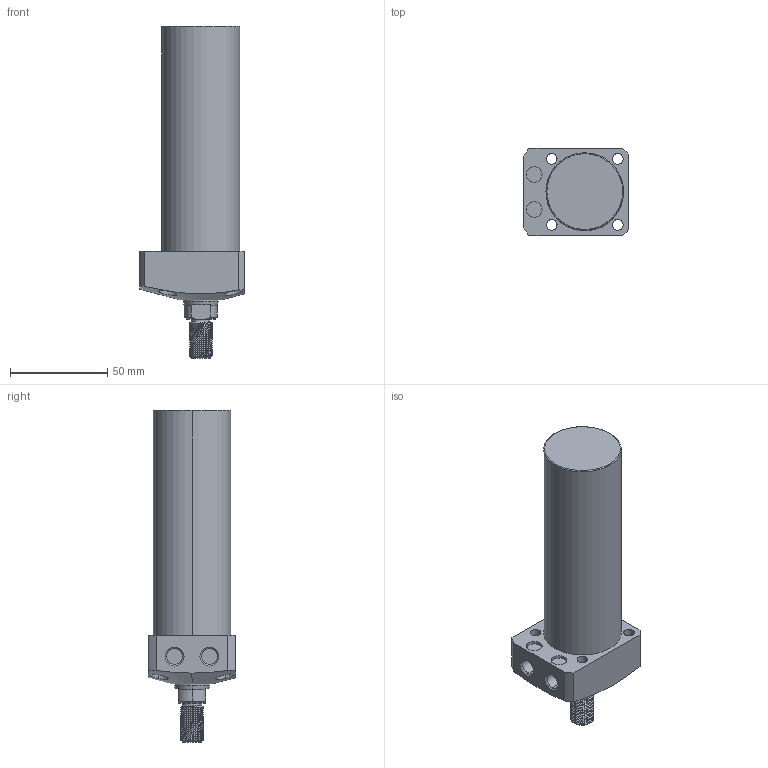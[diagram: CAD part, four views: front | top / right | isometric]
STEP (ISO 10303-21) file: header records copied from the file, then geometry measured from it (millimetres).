
FILE_DESCRIPTION (( 'STEP AP203' ), '1' );
FILE_NAME ('CLL-040CT-090.STEP', '2020-01-08T09:09:48', ( '' ), ( '' ), 'SwSTEP 2.0', 'SolidWorks 2015', '' );
FILE_SCHEMA (( 'CONFIG_CONTROL_DESIGN' ));
Length unit declared in the file: millimetre
Products named in the file (1): CLL-040CT-090
Bounding box: 54 x 45 x 171 mm (x, y, z)
Volume: 199431.6 mm3; surface area: 27460.8 mm2
Topology: 1 solids, 1 shells, 116 faces, 294 edges, 191 vertices
Faces by surface type: cylinder 71, plane 24, cone 17, torus 2, bspline 2
Entity records: 5890 total; most frequent: CARTESIAN_POINT 3201, ORIENTED_EDGE 588, DIRECTION 506, EDGE_CURVE 294, AXIS2_PLACEMENT_3D 200, VERTEX_POINT 191, EDGE_LOOP 135, ADVANCED_FACE 116
